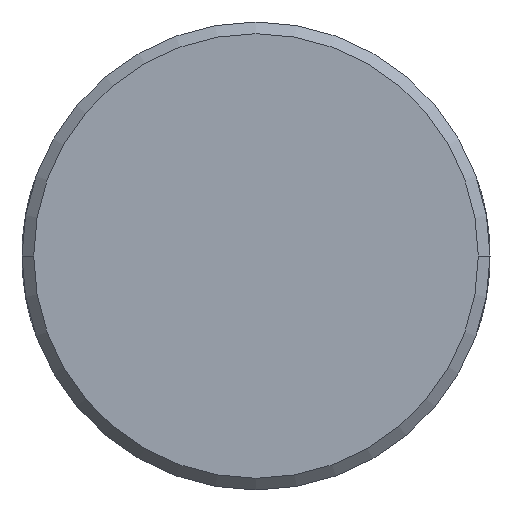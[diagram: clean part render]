
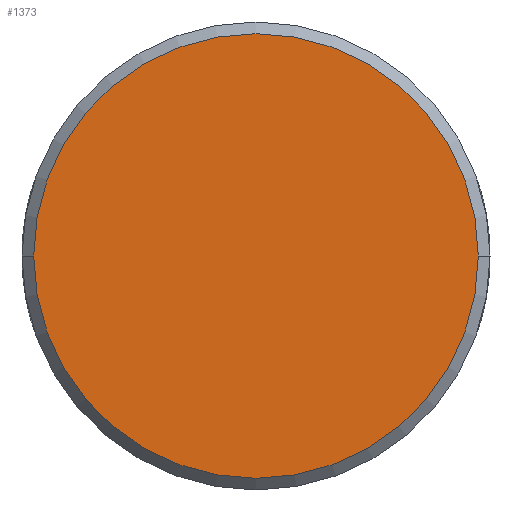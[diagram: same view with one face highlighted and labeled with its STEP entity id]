
A CAD part, front view. The second image highlights one B-rep face of the part: STEP entity #1373.
In plain terms, the highlighted planar face has unit normal (0, -1, 0).
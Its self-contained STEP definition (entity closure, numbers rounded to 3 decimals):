
#1=CARTESIAN_POINT('',(0.,-45.,0.));
#2=DIRECTION('',(0.,-1.,0.));
#3=DIRECTION('',(-1.,0.,0.));
#4=AXIS2_PLACEMENT_3D('',#1,#2,#3);
#6=CARTESIAN_POINT('',(0.,-45.,0.));
#7=DIRECTION('',(0.,-1.,0.));
#8=DIRECTION('',(1.,0.,0.));
#9=AXIS2_PLACEMENT_3D('',#6,#7,#8);
#1279=CARTESIAN_POINT('',(-5.7,-45.,0.));
#1280=CARTESIAN_POINT('',(5.7,-45.,0.));
#1281=VERTEX_POINT('',#1279);
#1282=VERTEX_POINT('',#1280);
#1362=CARTESIAN_POINT('',(0.,-45.,0.));
#1363=DIRECTION('',(0.,1.,0.));
#1364=DIRECTION('',(1.,0.,0.));
#1365=AXIS2_PLACEMENT_3D('',#1362,#1363,#1364);
#1366=PLANE('',#1365);
#1368=ORIENTED_EDGE('',*,*,#1367,.F.);
#1370=ORIENTED_EDGE('',*,*,#1369,.F.);
#1371=EDGE_LOOP('',(#1368,#1370));
#1372=FACE_OUTER_BOUND('',#1371,.F.);
#1373=ADVANCED_FACE('',(#1372),#1366,.F.);
#5=CIRCLE('',#4,5.7);
#10=CIRCLE('',#9,5.7);
#1367=EDGE_CURVE('',#1281,#1282,#5,.T.);
#1369=EDGE_CURVE('',#1282,#1281,#10,.T.);
